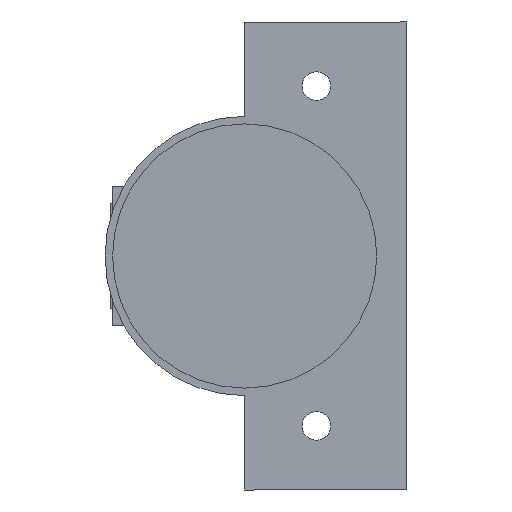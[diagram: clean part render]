
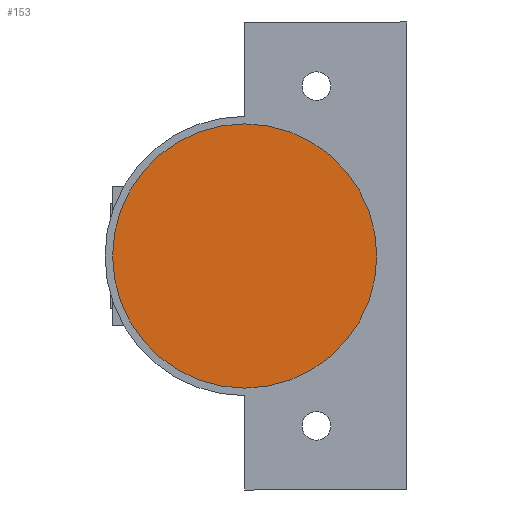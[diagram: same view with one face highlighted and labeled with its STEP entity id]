
A CAD part, front view. The second image highlights one B-rep face of the part: STEP entity #153.
In plain terms, the highlighted planar face has unit normal (0, -1, 0).
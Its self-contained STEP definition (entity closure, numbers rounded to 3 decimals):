
#65 = AXIS2_PLACEMENT_3D ( 'NONE', #561, #562, #563 ) ;
#80 = AXIS2_PLACEMENT_3D ( 'NONE', #409, #412, #413 ) ;
#122 = AXIS2_PLACEMENT_3D ( 'NONE', #635, #651, #652 ) ;
#153 = ADVANCED_FACE ( 'NONE', ( #1304 ), #410, .T. ) ;
#195 = EDGE_CURVE ( 'NONE', #1556, #1538, #1368, .T. ) ;
#238 = EDGE_CURVE ( 'NONE', #1538, #1556, #1444, .T. ) ;
#409 = CARTESIAN_POINT ( 'NONE',  ( 21.5, -12.6, 0. ) ) ;
#410 = PLANE ( 'NONE',  #80 ) ;
#412 = DIRECTION ( 'NONE',  ( 0., -1., 0. ) ) ;
#413 = DIRECTION ( 'NONE',  ( 1., 0., 0. ) ) ;
#561 = CARTESIAN_POINT ( 'NONE',  ( 21.5, -12.6, 0. ) ) ;
#562 = DIRECTION ( 'NONE',  ( 0., -1., 0. ) ) ;
#563 = DIRECTION ( 'NONE',  ( 1., 0., 0. ) ) ;
#635 = CARTESIAN_POINT ( 'NONE',  ( 21.5, -12.6, 0. ) ) ;
#651 = DIRECTION ( 'NONE',  ( 0., -1., 0. ) ) ;
#652 = DIRECTION ( 'NONE',  ( 1., 0., 0. ) ) ;
#744 = CARTESIAN_POINT ( 'NONE',  ( 4., -12.6, 0. ) ) ;
#761 = CARTESIAN_POINT ( 'NONE',  ( 39., -12.6, 0. ) ) ;
#862 = ORIENTED_EDGE ( 'NONE', *, *, #195, .T. ) ;
#863 = ORIENTED_EDGE ( 'NONE', *, *, #238, .T. ) ;
#885 = EDGE_LOOP ( 'NONE', ( #863, #862 ) ) ;
#1304 = FACE_OUTER_BOUND ( 'NONE', #885, .T. ) ;
#1368 = CIRCLE ( 'NONE', #65, 17.5 ) ;
#1444 = CIRCLE ( 'NONE', #122, 17.5 ) ;
#1538 = VERTEX_POINT ( 'NONE', #744 ) ;
#1556 = VERTEX_POINT ( 'NONE', #761 ) ;
